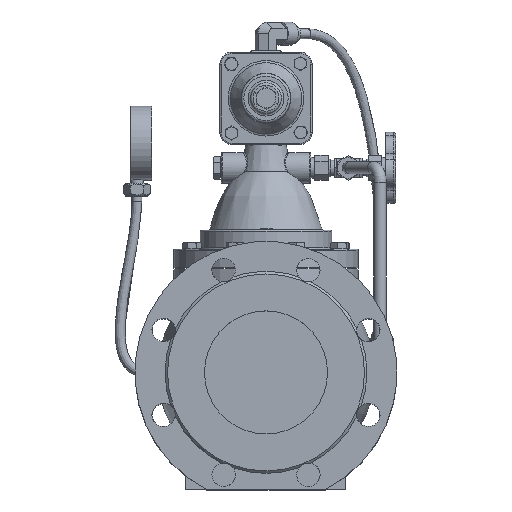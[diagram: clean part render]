
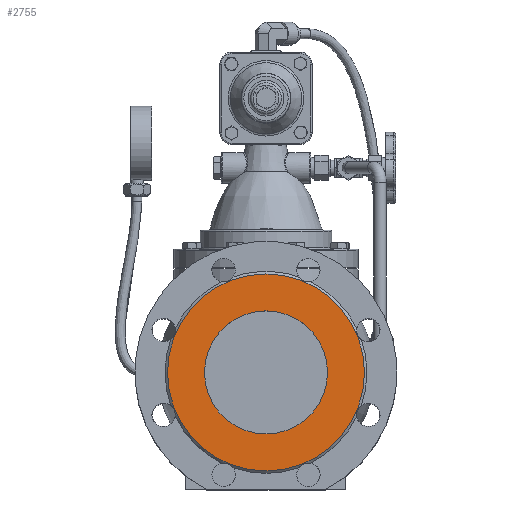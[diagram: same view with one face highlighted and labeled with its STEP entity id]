
A CAD part, top view. The second image highlights one B-rep face of the part: STEP entity #2755.
In plain terms, the highlighted planar face has unit normal (0, 0, 1).
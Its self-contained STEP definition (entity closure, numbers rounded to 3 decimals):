
#2755=ADVANCED_FACE('',(#21515,#21517),#21519,.T.);
#21515=FACE_BOUND('',#21516,.T.);
#21516=EDGE_LOOP('',(#43070));
#21517=FACE_BOUND('',#21518,.T.);
#21518=EDGE_LOOP('',(#43071));
#21519=PLANE('',#21520);
#21520=AXIS2_PLACEMENT_3D('',#21521,#21522,#21523);
#21521=CARTESIAN_POINT('',(0.,0.,143.5));
#21522=DIRECTION('',(0.,0.,1.));
#21523=DIRECTION('',(0.,1.,0.));
#43070=ORIENTED_EDGE('',*,*,#62111,.F.);
#43071=ORIENTED_EDGE('',*,*,#62239,.T.);
#62111=EDGE_CURVE('',#66247,#66247,#66248,.T.);
#62239=EDGE_CURVE('',#66442,#66442,#66443,.T.);
#66247=VERTEX_POINT('',#84918);
#66248=CIRCLE('',#84919,80.);
#66442=VERTEX_POINT('',#86479);
#66443=CIRCLE('',#86480,50.);
#84918=CARTESIAN_POINT('',(0.,80.,143.5));
#84919=AXIS2_PLACEMENT_3D('',#84920,#84921,#84922);
#84920=CARTESIAN_POINT('',(0.,0.,143.5));
#84921=DIRECTION('',(0.,0.,-1.));
#84922=DIRECTION('',(0.,1.,0.));
#86479=CARTESIAN_POINT('',(0.,50.,143.5));
#86480=AXIS2_PLACEMENT_3D('',#86481,#86482,#86483);
#86481=CARTESIAN_POINT('',(0.,0.,143.5));
#86482=DIRECTION('',(0.,0.,-1.));
#86483=DIRECTION('',(0.,1.,0.));
